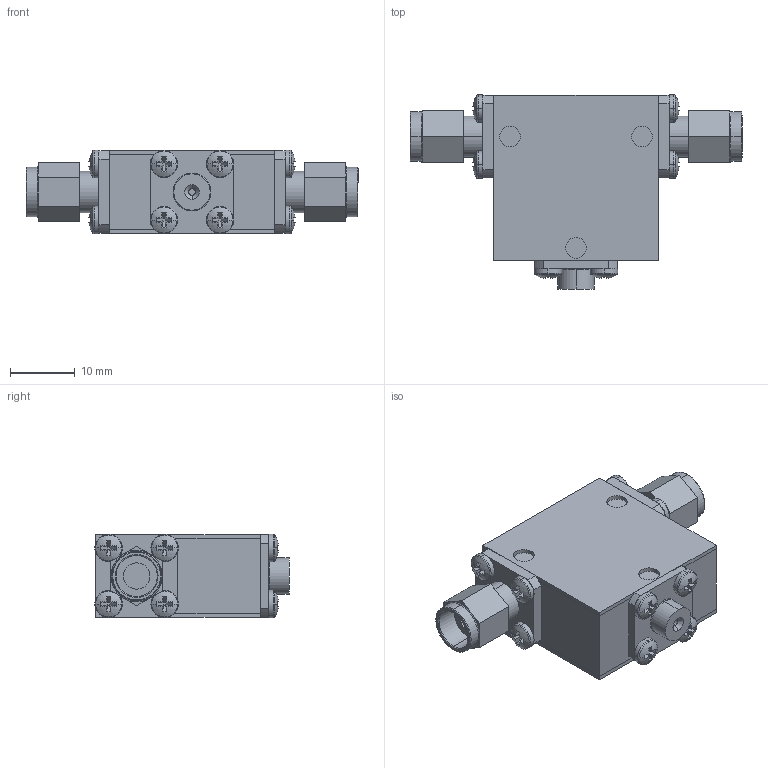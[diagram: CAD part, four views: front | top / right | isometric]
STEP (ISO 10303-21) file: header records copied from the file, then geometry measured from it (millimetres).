
FILE_DESCRIPTION (( 'STEP AP214' ), '1' );
FILE_NAME ('Package 3 Iso MM.step', '2021-12-01T21:00:22', ( '' ), ( '' ), 'SwSTEP 2.0', 'SolidWorks 2016', '' );
FILE_SCHEMA (( 'AUTOMOTIVE_DESIGN' ));
Length unit declared in the file: inch
Products named in the file (6): Package Size 3; pan cross head_ai_CR-PHMS 0.086-56x0.125x0.125-N; Package 3; 030013-1A; Delta SMA-Male; Package 3 Iso MM
Assembly tree (17 placements, depth 2):
  Package 3 Iso MM
    Package 3
    Package Size 3
    pan cross head_ai_CR-PHMS 0.086-56x0.125x0.125-N  x12
    Delta SMA-Male  x2
    030013-1A
Bounding box: 51.16 x 29.93 x 12.88 mm (x, y, z)
Volume: 9764.9 mm3; surface area: 8681.7 mm2
Topology: 17 solids, 17 shells, 430 faces, 980 edges, 604 vertices
Faces by surface type: plane 246, cylinder 118, torus 38, sphere 24, cone 4
Entity records: 4284 total; most frequent: DIRECTION 774, CARTESIAN_POINT 668, ORIENTED_EDGE 632, EDGE_CURVE 316, AXIS2_PLACEMENT_3D 308, VERTEX_POINT 202, EDGE_LOOP 168, LINE 158
